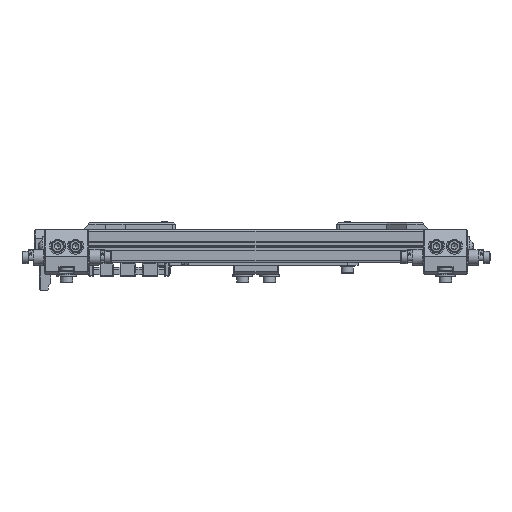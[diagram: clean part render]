
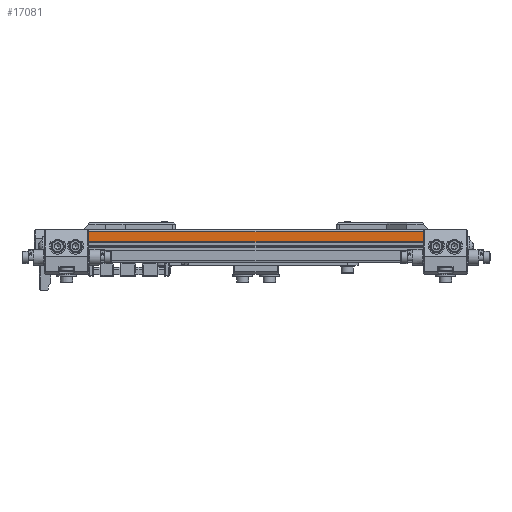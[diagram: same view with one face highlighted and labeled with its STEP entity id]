
A CAD part, left-side view. The second image highlights one B-rep face of the part: STEP entity #17081.
In plain terms, the highlighted planar face has unit normal (-1, 0, 0).
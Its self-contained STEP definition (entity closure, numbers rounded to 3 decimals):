
#16938 = PLANE('',#16939);
#16939 = AXIS2_PLACEMENT_3D('',#16940,#16941,#16942);
#16940 = CARTESIAN_POINT('',(0.,0.,185.));
#16941 = DIRECTION('',(0.,0.,1.));
#16942 = DIRECTION('',(0.,1.,0.));
#16966 = CYLINDRICAL_SURFACE('',#16967,1.);
#16967 = AXIS2_PLACEMENT_3D('',#16968,#16969,#16970);
#16968 = CARTESIAN_POINT('',(-6.5,6.5,0.));
#16969 = DIRECTION('',(-0.,-0.,-1.));
#16970 = DIRECTION('',(-1.,0.,0.));
#16992 = PLANE('',#16993);
#16993 = AXIS2_PLACEMENT_3D('',#16994,#16995,#16996);
#16994 = CARTESIAN_POINT('',(0.,0.,0.));
#16995 = DIRECTION('',(0.,0.,1.));
#16996 = DIRECTION('',(0.,1.,0.));
#17009 = VERTEX_POINT('',#17010);
#17010 = CARTESIAN_POINT('',(-7.5,6.5,185.));
#17032 = EDGE_CURVE('',#17033,#17009,#17035,.T.);
#17033 = VERTEX_POINT('',#17034);
#17034 = CARTESIAN_POINT('',(-7.5,6.5,0.));
#17035 = SURFACE_CURVE('',#17036,(#17040,#17047),.PCURVE_S1.);
#17036 = LINE('',#17037,#17038);
#17037 = CARTESIAN_POINT('',(-7.5,6.5,0.));
#17038 = VECTOR('',#17039,1.);
#17039 = DIRECTION('',(0.,0.,1.));
#17040 = PCURVE('',#16966,#17041);
#17041 = DEFINITIONAL_REPRESENTATION('',(#17042),#17046);
#17042 = LINE('',#17043,#17044);
#17043 = CARTESIAN_POINT('',(-6.283,0.));
#17044 = VECTOR('',#17045,1.);
#17045 = DIRECTION('',(-0.,-1.));
#17046 = ( GEOMETRIC_REPRESENTATION_CONTEXT(2) 
PARAMETRIC_REPRESENTATION_CONTEXT() REPRESENTATION_CONTEXT('2D SPACE',''
  ) );
#17047 = PCURVE('',#17048,#17053);
#17048 = PLANE('',#17049);
#17049 = AXIS2_PLACEMENT_3D('',#17050,#17051,#17052);
#17050 = CARTESIAN_POINT('',(-7.5,6.5,0.));
#17051 = DIRECTION('',(1.,0.,-0.));
#17052 = DIRECTION('',(0.,-1.,0.));
#17053 = DEFINITIONAL_REPRESENTATION('',(#17054),#17058);
#17054 = LINE('',#17055,#17056);
#17055 = CARTESIAN_POINT('',(0.,0.));
#17056 = VECTOR('',#17057,1.);
#17057 = DIRECTION('',(0.,-1.));
#17058 = ( GEOMETRIC_REPRESENTATION_CONTEXT(2) 
PARAMETRIC_REPRESENTATION_CONTEXT() REPRESENTATION_CONTEXT('2D SPACE',''
  ) );
#17081 = ADVANCED_FACE('',(#17082),#17048,.F.);
#17082 = FACE_BOUND('',#17083,.F.);
#17083 = EDGE_LOOP('',(#17084,#17085,#17108,#17136));
#17084 = ORIENTED_EDGE('',*,*,#17032,.T.);
#17085 = ORIENTED_EDGE('',*,*,#17086,.T.);
#17086 = EDGE_CURVE('',#17009,#17087,#17089,.T.);
#17087 = VERTEX_POINT('',#17088);
#17088 = CARTESIAN_POINT('',(-7.5,2.,185.));
#17089 = SURFACE_CURVE('',#17090,(#17094,#17101),.PCURVE_S1.);
#17090 = LINE('',#17091,#17092);
#17091 = CARTESIAN_POINT('',(-7.5,3.25,185.));
#17092 = VECTOR('',#17093,1.);
#17093 = DIRECTION('',(0.,-1.,0.));
#17094 = PCURVE('',#17048,#17095);
#17095 = DEFINITIONAL_REPRESENTATION('',(#17096),#17100);
#17096 = LINE('',#17097,#17098);
#17097 = CARTESIAN_POINT('',(3.25,-185.));
#17098 = VECTOR('',#17099,1.);
#17099 = DIRECTION('',(1.,0.));
#17100 = ( GEOMETRIC_REPRESENTATION_CONTEXT(2) 
PARAMETRIC_REPRESENTATION_CONTEXT() REPRESENTATION_CONTEXT('2D SPACE',''
  ) );
#17101 = PCURVE('',#16938,#17102);
#17102 = DEFINITIONAL_REPRESENTATION('',(#17103),#17107);
#17103 = LINE('',#17104,#17105);
#17104 = CARTESIAN_POINT('',(3.25,7.5));
#17105 = VECTOR('',#17106,1.);
#17106 = DIRECTION('',(-1.,0.));
#17107 = ( GEOMETRIC_REPRESENTATION_CONTEXT(2) 
PARAMETRIC_REPRESENTATION_CONTEXT() REPRESENTATION_CONTEXT('2D SPACE',''
  ) );
#17108 = ORIENTED_EDGE('',*,*,#17109,.F.);
#17109 = EDGE_CURVE('',#17110,#17087,#17112,.T.);
#17110 = VERTEX_POINT('',#17111);
#17111 = CARTESIAN_POINT('',(-7.5,2.,0.));
#17112 = SURFACE_CURVE('',#17113,(#17117,#17124),.PCURVE_S1.);
#17113 = LINE('',#17114,#17115);
#17114 = CARTESIAN_POINT('',(-7.5,2.,0.));
#17115 = VECTOR('',#17116,1.);
#17116 = DIRECTION('',(0.,0.,1.));
#17117 = PCURVE('',#17048,#17118);
#17118 = DEFINITIONAL_REPRESENTATION('',(#17119),#17123);
#17119 = LINE('',#17120,#17121);
#17120 = CARTESIAN_POINT('',(4.5,0.));
#17121 = VECTOR('',#17122,1.);
#17122 = DIRECTION('',(0.,-1.));
#17123 = ( GEOMETRIC_REPRESENTATION_CONTEXT(2) 
PARAMETRIC_REPRESENTATION_CONTEXT() REPRESENTATION_CONTEXT('2D SPACE',''
  ) );
#17124 = PCURVE('',#17125,#17130);
#17125 = CYLINDRICAL_SURFACE('',#17126,0.3);
#17126 = AXIS2_PLACEMENT_3D('',#17127,#17128,#17129);
#17127 = CARTESIAN_POINT('',(-7.2,2.,0.));
#17128 = DIRECTION('',(-0.,-0.,-1.));
#17129 = DIRECTION('',(-1.,0.,0.));
#17130 = DEFINITIONAL_REPRESENTATION('',(#17131),#17135);
#17131 = LINE('',#17132,#17133);
#17132 = CARTESIAN_POINT('',(-0.,0.));
#17133 = VECTOR('',#17134,1.);
#17134 = DIRECTION('',(-0.,-1.));
#17135 = ( GEOMETRIC_REPRESENTATION_CONTEXT(2) 
PARAMETRIC_REPRESENTATION_CONTEXT() REPRESENTATION_CONTEXT('2D SPACE',''
  ) );
#17136 = ORIENTED_EDGE('',*,*,#17137,.F.);
#17137 = EDGE_CURVE('',#17033,#17110,#17138,.T.);
#17138 = SURFACE_CURVE('',#17139,(#17143,#17150),.PCURVE_S1.);
#17139 = LINE('',#17140,#17141);
#17140 = CARTESIAN_POINT('',(-7.5,3.25,0.));
#17141 = VECTOR('',#17142,1.);
#17142 = DIRECTION('',(0.,-1.,0.));
#17143 = PCURVE('',#17048,#17144);
#17144 = DEFINITIONAL_REPRESENTATION('',(#17145),#17149);
#17145 = LINE('',#17146,#17147);
#17146 = CARTESIAN_POINT('',(3.25,0.));
#17147 = VECTOR('',#17148,1.);
#17148 = DIRECTION('',(1.,0.));
#17149 = ( GEOMETRIC_REPRESENTATION_CONTEXT(2) 
PARAMETRIC_REPRESENTATION_CONTEXT() REPRESENTATION_CONTEXT('2D SPACE',''
  ) );
#17150 = PCURVE('',#16992,#17151);
#17151 = DEFINITIONAL_REPRESENTATION('',(#17152),#17156);
#17152 = LINE('',#17153,#17154);
#17153 = CARTESIAN_POINT('',(3.25,7.5));
#17154 = VECTOR('',#17155,1.);
#17155 = DIRECTION('',(-1.,0.));
#17156 = ( GEOMETRIC_REPRESENTATION_CONTEXT(2) 
PARAMETRIC_REPRESENTATION_CONTEXT() REPRESENTATION_CONTEXT('2D SPACE',''
  ) );
